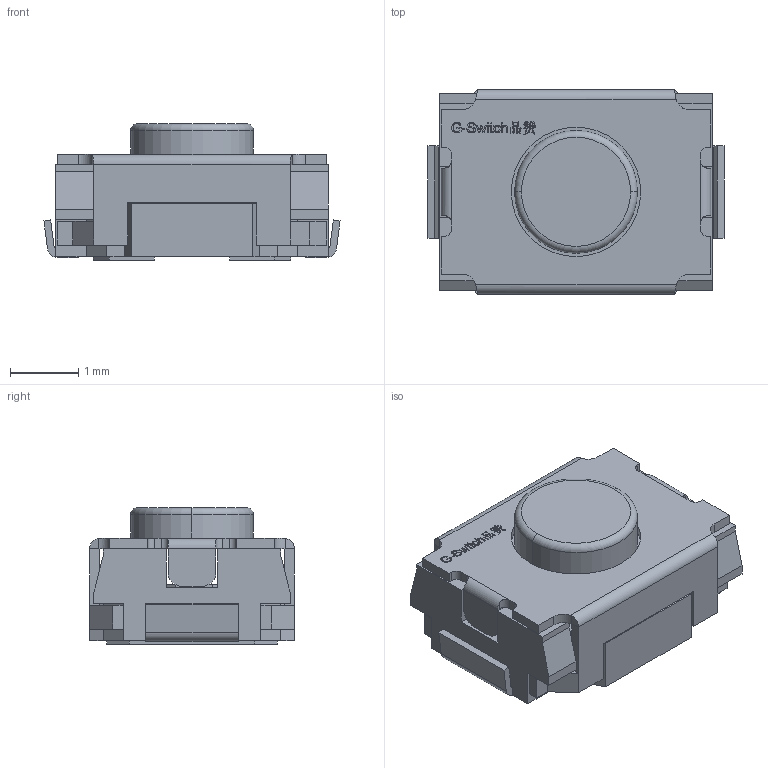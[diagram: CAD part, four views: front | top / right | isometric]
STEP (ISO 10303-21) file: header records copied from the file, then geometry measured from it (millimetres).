
FILE_DESCRIPTION (( 'STEP AP214' ), '1' );
FILE_NAME ('GT-TC031X-HXXX-LXN.STEP', '2025-06-07T02:08:23', ( '' ), ( '' ), 'SwSTEP 2.0', 'SolidWorks 2023', '' );
FILE_SCHEMA (( 'AUTOMOTIVE_DESIGN' ));
Length unit declared in the file: millimetre
Products named in the file (1): GT-TC031X-HXXX-LXN
Bounding box: 4.34 x 3 x 2 mm (x, y, z)
Volume: 11.7 mm3; surface area: 99.3 mm2
Topology: 1 solids, 1 shells, 543 faces, 1568 edges, 1031 vertices
Faces by surface type: plane 408, bspline 74, cylinder 53, torus 8
Entity records: 21306 total; most frequent: CARTESIAN_POINT 7381, ORIENTED_EDGE 3136, DIRECTION 2485, EDGE_CURVE 1568, VECTOR 1271, LINE 1271, VERTEX_POINT 1031, AXIS2_PLACEMENT_3D 607
